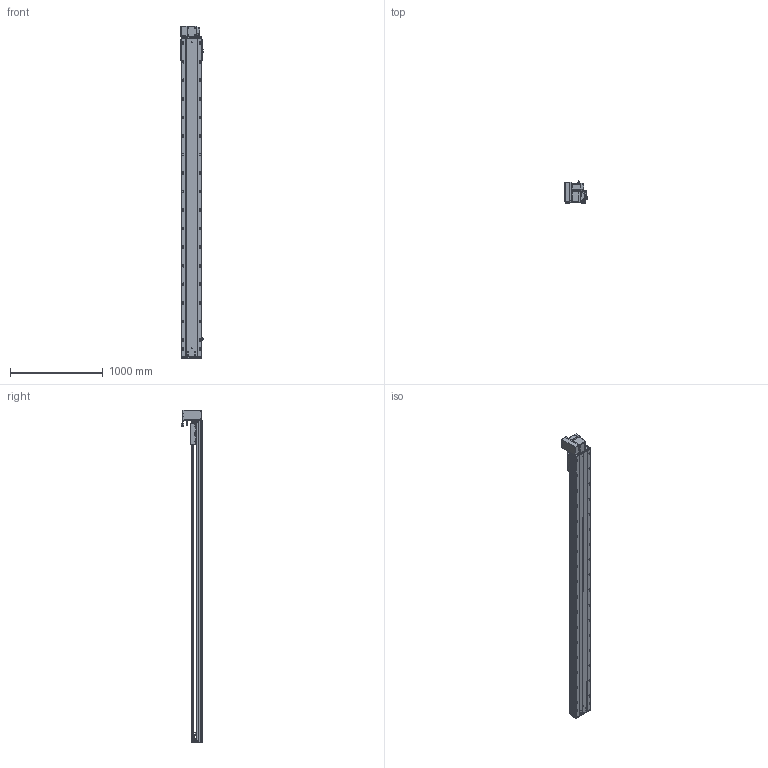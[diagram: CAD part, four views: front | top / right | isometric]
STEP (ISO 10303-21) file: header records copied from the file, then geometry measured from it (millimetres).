
FILE_DESCRIPTION (( 'STEP AP203' ), '1' );
FILE_NAME ('RY220-T-300-UL.SLDASM_3100.step', '2022-07-25T08:36:31', ( '' ), ( '' ), 'SwSTEP 2.0', 'SolidWorks 2016', '' );
FILE_SCHEMA (( 'CONFIG_CONTROL_DESIGN' ));
Length unit declared in the file: millimetre
Products named in the file (14): RY220翋肮祭謫裔啣; RY220-T-300-UL.SLDASM_3100; 覜茼ん672; RY220圉猾敕々湍臏賑輸; RY220翋肮祭謫釱; 110A-T-肮祭謫釱傷裔; RY220-T-300-奻裔啣_3100; RY220-T-湍謫欶(鍼踢); RY220-同步轮副支撑座6304×2; 怢湛750W_ECMA-CX0807ES; RY220-俋离672覜茼んえ; RY220-T-蛌殏萇儂假蚾啣(750W); RY220-T菁釱-300_3100; 滅袉蝶18-15
Assembly tree (18 placements, depth 2):
  RY220-T-300-UL.SLDASM_3100
    RY220-T菁釱-300_3100
    RY220翋肮祭謫釱
    覜茼ん672  x3
    RY220圉猾敕々湍臏賑輸
    RY220-T-300-奻裔啣_3100
    RY220-俋离672覜茼んえ
    滅袉蝶18-15  x3
    RY220翋肮祭謫裔啣  x2
    110A-T-肮祭謫釱傷裔
    怢湛750W_ECMA-CX0807ES
    RY220-T-湍謫欶(鍼踢)
    RY220-T-蛌殏萇儂假蚾啣(750W)
    RY220-同步轮副支撑座6304×2
Bounding box: 239.7 x 231.74 x 3580.5 mm (x, y, z)
Volume: 25848653.1 mm3; surface area: 8010589.9 mm2
Topology: 19 solids, 19 shells, 3058 faces, 8463 edges, 5292 vertices
Faces by surface type: cylinder 1518, plane 1069, cone 389, bspline 56, sphere 16, torus 10
Entity records: 102035 total; most frequent: CARTESIAN_POINT 28749, ORIENTED_EDGE 15130, DIRECTION 14648, EDGE_CURVE 7565, AXIS2_PLACEMENT_3D 5300, VERTEX_POINT 4916, VECTOR 4048, LINE 4048
